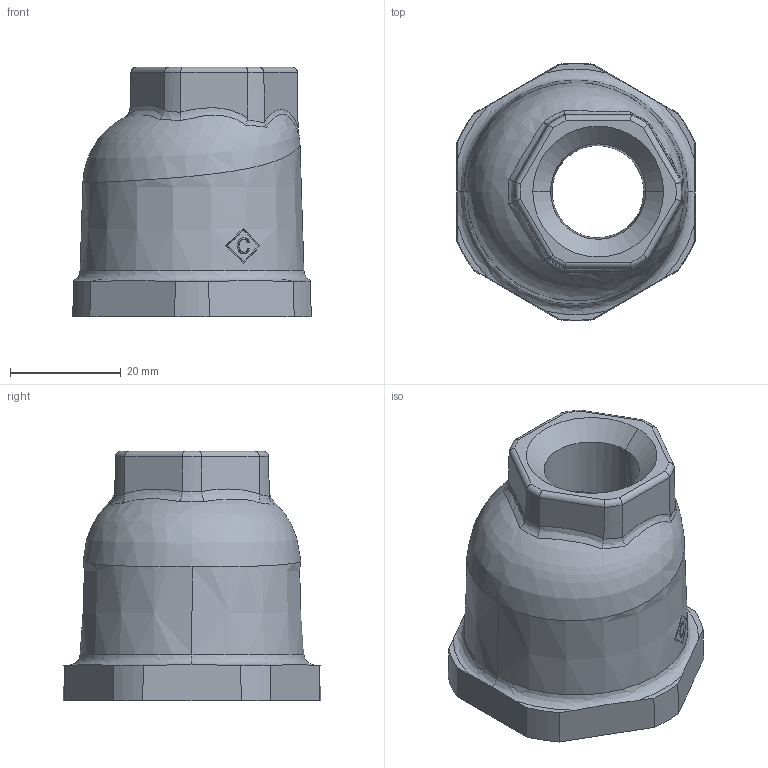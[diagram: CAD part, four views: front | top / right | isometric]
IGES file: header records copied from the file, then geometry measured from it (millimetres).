
Global section: file name: No Iges File Name specified; native system: AutoDesk Inventor R12.0; preprocessor: AutoDesk Inventor Iges Exporter R12.0; date: 20090917.084116; units: millimetre
Bounding box: 43 x 46.45 x 45 mm (x, y, z)
Volume: 27502.5 mm3; surface area: 10435.6 mm2
Topology: 1 solids, 1 shells, 93 faces, 259 edges, 171 vertices
Faces by surface type: plane 31, bspline 25, cone 17, revolution 8, torus 6, cylinder 6
